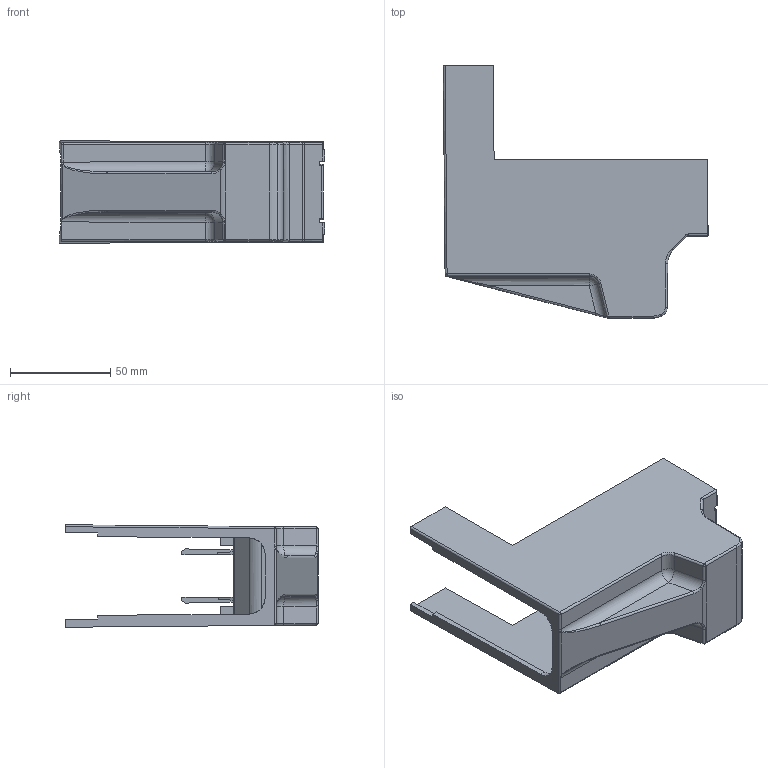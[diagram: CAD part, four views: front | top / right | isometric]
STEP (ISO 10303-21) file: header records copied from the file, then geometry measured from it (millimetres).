
FILE_DESCRIPTION(/* description */ (''),/* implementation_level */ '2;1');
FILE_NAME(/* name */ '83_1000915',/* time_stamp */ '2014-08-14T08:29:17+02:00',/* author */ (''),/* organization */ (''),/* preprocessor_version */ 'ST-DEVELOPER v9',/* originating_system */ 'UGS - NX 4.0',/* authorisation */ '');
FILE_SCHEMA (('CONFIG_CONTROL_DESIGN'));
Length unit declared in the file: millimetre
Products named in the file (1): MTroCB04a6s8
Bounding box: 132.67 x 126 x 51.2 mm (x, y, z)
Volume: 44922.9 mm3; surface area: 58420.3 mm2
Topology: 1 solids, 1 shells, 203 faces, 509 edges, 300 vertices
Faces by surface type: plane 78, cylinder 73, bspline 39, sphere 13
Entity records: 6397 total; most frequent: CARTESIAN_POINT 1560, DIRECTION 1018, ORIENTED_EDGE 1002, EDGE_CURVE 501, AXIS2_PLACEMENT_3D 366, VERTEX_POINT 300, LINE 286, VECTOR 286
